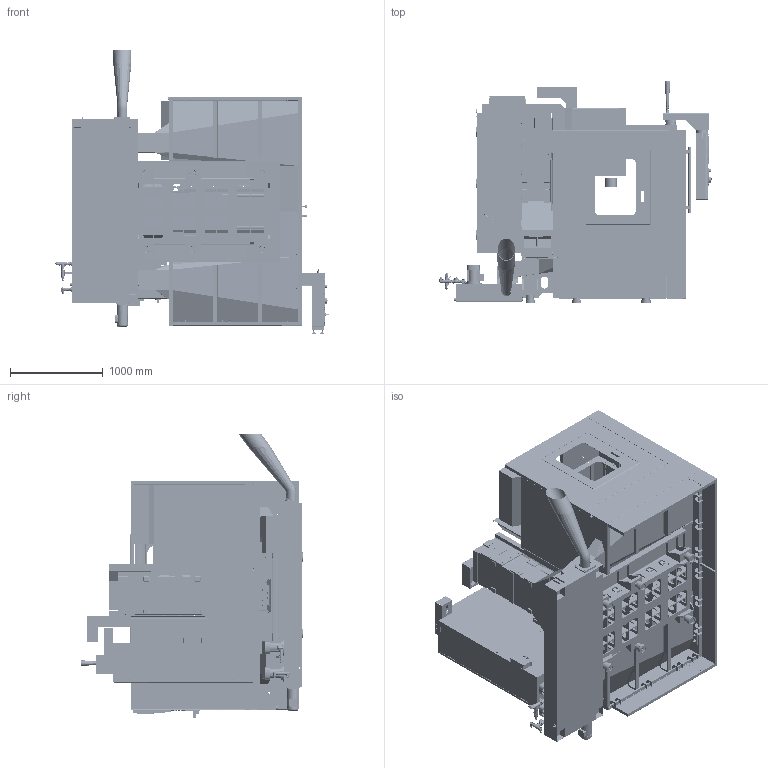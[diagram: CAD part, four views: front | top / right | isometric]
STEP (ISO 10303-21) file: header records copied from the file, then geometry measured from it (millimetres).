
FILE_DESCRIPTION (( 'STEP AP203' ), '1' );
FILE_NAME ('31501.STEP', '2020-04-21T15:19:22', ( '' ), ( '' ), 'SwSTEP 2.0', 'SolidWorks 2019', '' );
FILE_SCHEMA (( 'CONFIG_CONTROL_DESIGN' ));
Products named in the file (1): 31501
Bounding box: 2938.07 x 2394.01 x 3056.9 mm (x, y, z)
Surface area: 82078163.7 mm2 (no closed solid volume)
Topology: 0 solids, 5964 shells, 18184 faces, 85759 edges, 71935 vertices
Faces by surface type: plane 10904, cylinder 4003, bspline 2525, cone 365, torus 287, sphere 100
Entity records: 1025511 total; most frequent: CARTESIAN_POINT 381980, DIRECTION 122356, ORIENTED_EDGE 106050, EDGE_CURVE 85554, VERTEX_POINT 71933, LINE 58978, VECTOR 58978, AXIS2_PLACEMENT_3D 31689
